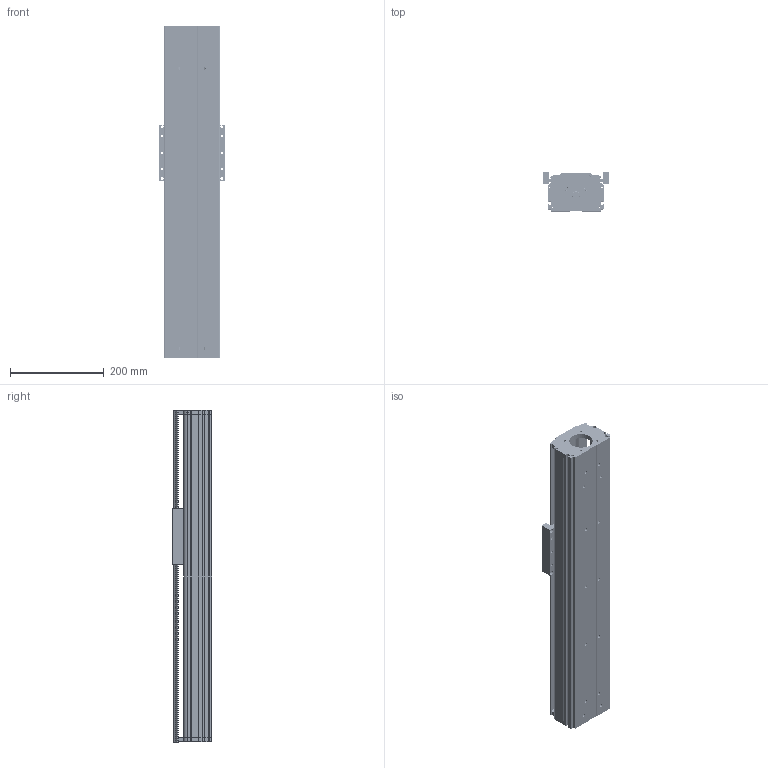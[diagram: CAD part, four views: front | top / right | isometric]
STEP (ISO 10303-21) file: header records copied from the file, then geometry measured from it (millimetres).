
FILE_DESCRIPTION (( 'STEP AP203' ), '1' );
FILE_NAME ('CF120-P500.STEP', '2016-02-23T01:58:20', ( 'Sky123.Org' ), ( 'Sky123.Org' ), 'SwSTEP 2.0', 'SolidWorks 2015', '' );
FILE_SCHEMA (( 'CONFIG_CONTROL_DESIGN' ));
Length unit declared in the file: millimetre
Products named in the file (15): CF120蹟譫釱; CF120傷裔耜啣-sigan; EGR15-P600-880; EGH-15-CABZnew; EK12+EF12-P600-744; SFU1605-3蹟譫; CF120-P350-540臏倰第; EK12; CF120-P350-560裔啣; 粣創結啣; CF120-P500; EF12; CF120賑雄啣; cf120-60萇儂釱
Assembly tree (18 placements, depth 3):
  CF120-P500
    cf120-60萇儂釱
    CF120傷裔耜啣-sigan
    EGH-15-CABZnew  x4
    SFU1605-3蹟譫
    EK12
      EK12
      粣創結啣
    EF12
    CF120賑雄啣
    CF120蹟譫釱
    EGR15-P600-880  x2
    EK12+EF12-P600-744
    CF120-P350-540臏倰第
    CF120-P350-560裔啣
Bounding box: 140 x 84.5 x 710 mm (x, y, z)
Volume: 2622084.7 mm3; surface area: 915256.9 mm2
Topology: 13 solids, 65 shells, 7309 faces, 27558 edges, 18941 vertices
Faces by surface type: plane 3541, bspline 2351, cylinder 1027, cone 150, torus 136, sphere 104
Entity records: 131143 total; most frequent: CARTESIAN_POINT 57924, ORIENTED_EDGE 15638, DIRECTION 12223, EDGE_CURVE 8943, VERTEX_POINT 6094, VECTOR 5209, LINE 5209, AXIS2_PLACEMENT_3D 3507
